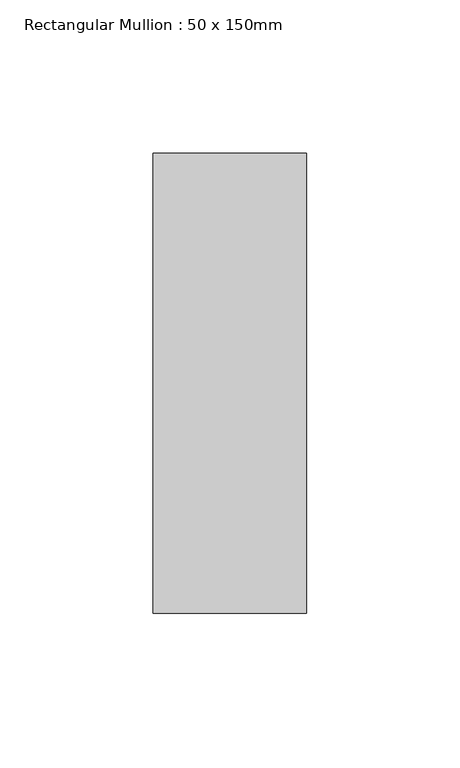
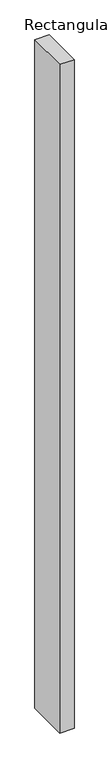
"""IFC4 building model written with IfcOpenShell, lengths in millimetres: member geometry, Rectangular Mullion : 50 x 150mm."""

from ifc_helpers import new_model, si_unit, frame, origin, place, context, project, spatial, polyline, outline, extrude, source, transform, mapped, element, save


def rectangular_mullion_50_x_150mm_4770c21b(model_context):
    return source(origin(), model_context, "Body", "SweptSolid", [
        extrude(outline(polyline([(0.0, 75.0), (0.0, -75.0), (-50.0, -75.0), (-50.0, 75.0), (0.0, 75.0)])), frame((0.0, 0.0, -2467.5876796), z_axis=(0.0, 0.0, 1.0), x_axis=(1.0, 0.0, 0.0)), (0.0, 0.0, 1.0), 2467.5876796),
    ])


if __name__ == "__main__":
    model = new_model("IFC4")
    model_context = context("Model", 3, world=origin())
    ifc_project = project(units=[si_unit("LENGTHUNIT", "METRE", prefix="MILLI")], contexts=[model_context])
    site = spatial("IfcSite", under=ifc_project)
    building = spatial("IfcBuilding", under=site)
    placement = place(None, origin())
    rectangular_mullion_50_x_150mm_shape = rectangular_mullion_50_x_150mm_4770c21b(model_context)
    element("IfcMember", 1, ObjectType="Rectangular Mullion : 50 x 150mm", at=placement, inside=building, context=model_context, shape_type="MappedRepresentation", body=[
        mapped(rectangular_mullion_50_x_150mm_shape, transform((0.0, 0.0, 0.0), x_axis=(1.0, 0.0, 0.0), y_axis=(0.0, 1.0, 0.0), z_axis=(0.0, 0.0, 1.0))),
    ])
    save(model, "model.ifc")
